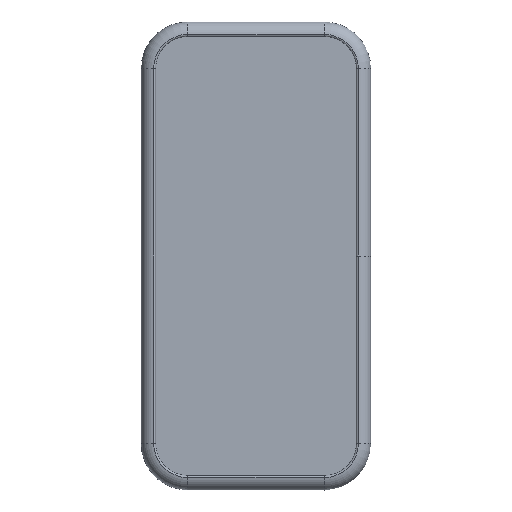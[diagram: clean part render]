
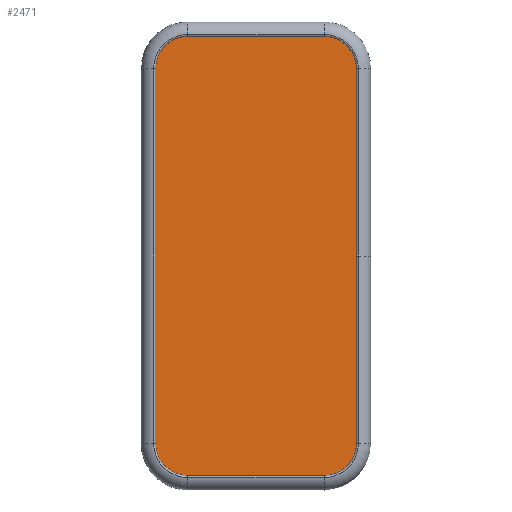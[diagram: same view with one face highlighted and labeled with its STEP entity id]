
A CAD part, front view. The second image highlights one B-rep face of the part: STEP entity #2471.
In plain terms, the highlighted planar face has unit normal (0, -1, 0).
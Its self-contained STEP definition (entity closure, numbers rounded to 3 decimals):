
#73 = CIRCLE ( 'NONE', #311, 9.65 ) ;
#171 = DIRECTION ( 'NONE',  ( 0., 0., 1. ) ) ;
#244 = AXIS2_PLACEMENT_3D ( 'NONE', #2404, #272, #1821 ) ;
#262 = DIRECTION ( 'NONE',  ( 1., 0., 0. ) ) ;
#272 = DIRECTION ( 'NONE',  ( 0., 1., 0. ) ) ;
#273 = CARTESIAN_POINT ( 'NONE',  ( 20.35, -3.55, -55.95 ) ) ;
#283 = EDGE_CURVE ( 'NONE', #1658, #998, #2058, .T. ) ;
#284 = DIRECTION ( 'NONE',  ( 1., 0., 0. ) ) ;
#294 = CIRCLE ( 'NONE', #323, 9.65 ) ;
#311 = AXIS2_PLACEMENT_3D ( 'NONE', #558, #371, #2111 ) ;
#323 = AXIS2_PLACEMENT_3D ( 'NONE', #273, #1227, #262 ) ;
#329 = CARTESIAN_POINT ( 'NONE',  ( 30., -3.55, 55.95 ) ) ;
#336 = EDGE_LOOP ( 'NONE', ( #1082, #2094, #849, #785, #2054, #1533, #972, #1684, #1114 ) ) ;
#365 = VERTEX_POINT ( 'NONE', #1762 ) ;
#371 = DIRECTION ( 'NONE',  ( 0., 1., 0. ) ) ;
#558 = CARTESIAN_POINT ( 'NONE',  ( -20.35, -3.55, 55.95 ) ) ;
#559 = VECTOR ( 'NONE', #1666, 1000. ) ;
#614 = LINE ( 'NONE', #329, #559 ) ;
#617 = VECTOR ( 'NONE', #1520, 1000. ) ;
#676 = LINE ( 'NONE', #1667, #617 ) ;
#703 = VERTEX_POINT ( 'NONE', #1072 ) ;
#785 = ORIENTED_EDGE ( 'NONE', *, *, #2077, .F. ) ;
#807 = VERTEX_POINT ( 'NONE', #1131 ) ;
#809 = CARTESIAN_POINT ( 'NONE',  ( -20.35, -3.55, 65.6 ) ) ;
#849 = ORIENTED_EDGE ( 'NONE', *, *, #968, .F. ) ;
#867 = DIRECTION ( 'NONE',  ( -1., 0., 0. ) ) ;
#872 = VERTEX_POINT ( 'NONE', #2358 ) ;
#889 = DIRECTION ( 'NONE',  ( 0., 0., 1. ) ) ;
#893 = CARTESIAN_POINT ( 'NONE',  ( -30., -3.55, -55.95 ) ) ;
#897 = EDGE_CURVE ( 'NONE', #703, #1659, #1259, .T. ) ;
#945 = VERTEX_POINT ( 'NONE', #809 ) ;
#968 = EDGE_CURVE ( 'NONE', #1300, #807, #294, .T. ) ;
#972 = ORIENTED_EDGE ( 'NONE', *, *, #2337, .F. ) ;
#998 = VERTEX_POINT ( 'NONE', #1036 ) ;
#1020 = VECTOR ( 'NONE', #171, 1000. ) ;
#1036 = CARTESIAN_POINT ( 'NONE',  ( -30., -3.55, 55.95 ) ) ;
#1072 = CARTESIAN_POINT ( 'NONE',  ( 20.35, -3.55, 65.6 ) ) ;
#1082 = ORIENTED_EDGE ( 'NONE', *, *, #2021, .F. ) ;
#1102 = CARTESIAN_POINT ( 'NONE',  ( -20.35, -3.55, -55.95 ) ) ;
#1114 = ORIENTED_EDGE ( 'NONE', *, *, #283, .F. ) ;
#1131 = CARTESIAN_POINT ( 'NONE',  ( 20.35, -3.55, -65.6 ) ) ;
#1191 = CARTESIAN_POINT ( 'NONE',  ( 20.35, -3.55, 55.95 ) ) ;
#1192 = VECTOR ( 'NONE', #867, 1000. ) ;
#1227 = DIRECTION ( 'NONE',  ( 0., 1., 0. ) ) ;
#1256 = CARTESIAN_POINT ( 'NONE',  ( 20.35, -3.55, -65.6 ) ) ;
#1259 = CIRCLE ( 'NONE', #1312, 9.65 ) ;
#1300 = VERTEX_POINT ( 'NONE', #1512 ) ;
#1306 = EDGE_CURVE ( 'NONE', #998, #945, #73, .T. ) ;
#1312 = AXIS2_PLACEMENT_3D ( 'NONE', #1191, #1360, #1550 ) ;
#1360 = DIRECTION ( 'NONE',  ( 0., 1., 0. ) ) ;
#1453 = PLANE ( 'NONE',  #2165 ) ;
#1512 = CARTESIAN_POINT ( 'NONE',  ( 30., -3.55, -55.95 ) ) ;
#1520 = DIRECTION ( 'NONE',  ( 0., 0., -1. ) ) ;
#1533 = ORIENTED_EDGE ( 'NONE', *, *, #897, .F. ) ;
#1550 = DIRECTION ( 'NONE',  ( 0., 0., 1. ) ) ;
#1658 = VERTEX_POINT ( 'NONE', #893 ) ;
#1659 = VERTEX_POINT ( 'NONE', #1857 ) ;
#1666 = DIRECTION ( 'NONE',  ( 0., 0., -1. ) ) ;
#1667 = CARTESIAN_POINT ( 'NONE',  ( 30., -3.55, 0. ) ) ;
#1671 = CIRCLE ( 'NONE', #244, 9.65 ) ;
#1684 = ORIENTED_EDGE ( 'NONE', *, *, #1306, .F. ) ;
#1697 = LINE ( 'NONE', #1256, #1192 ) ;
#1761 = VECTOR ( 'NONE', #284, 1000. ) ;
#1762 = CARTESIAN_POINT ( 'NONE',  ( -20.35, -3.55, -65.6 ) ) ;
#1800 = CARTESIAN_POINT ( 'NONE',  ( -20.35, -3.55, 65.6 ) ) ;
#1821 = DIRECTION ( 'NONE',  ( 0., 0., -1. ) ) ;
#1857 = CARTESIAN_POINT ( 'NONE',  ( 30., -3.55, 55.95 ) ) ;
#1979 = FACE_OUTER_BOUND ( 'NONE', #336, .T. ) ;
#2012 = LINE ( 'NONE', #1800, #1761 ) ;
#2021 = EDGE_CURVE ( 'NONE', #365, #1658, #1671, .T. ) ;
#2054 = ORIENTED_EDGE ( 'NONE', *, *, #2410, .F. ) ;
#2058 = LINE ( 'NONE', #2476, #1020 ) ;
#2077 = EDGE_CURVE ( 'NONE', #872, #1300, #676, .T. ) ;
#2094 = ORIENTED_EDGE ( 'NONE', *, *, #2389, .F. ) ;
#2111 = DIRECTION ( 'NONE',  ( -1., 0., 0. ) ) ;
#2165 = AXIS2_PLACEMENT_3D ( 'NONE', #1102, #2460, #889 ) ;
#2337 = EDGE_CURVE ( 'NONE', #945, #703, #2012, .T. ) ;
#2358 = CARTESIAN_POINT ( 'NONE',  ( 30., -3.55, 0. ) ) ;
#2389 = EDGE_CURVE ( 'NONE', #807, #365, #1697, .T. ) ;
#2404 = CARTESIAN_POINT ( 'NONE',  ( -20.35, -3.55, -55.95 ) ) ;
#2410 = EDGE_CURVE ( 'NONE', #1659, #872, #614, .T. ) ;
#2460 = DIRECTION ( 'NONE',  ( 0., 1., 0. ) ) ;
#2471 = ADVANCED_FACE ( 'NONE', ( #1979 ), #1453, .F. ) ;
#2476 = CARTESIAN_POINT ( 'NONE',  ( -30., -3.55, -55.95 ) ) ;
